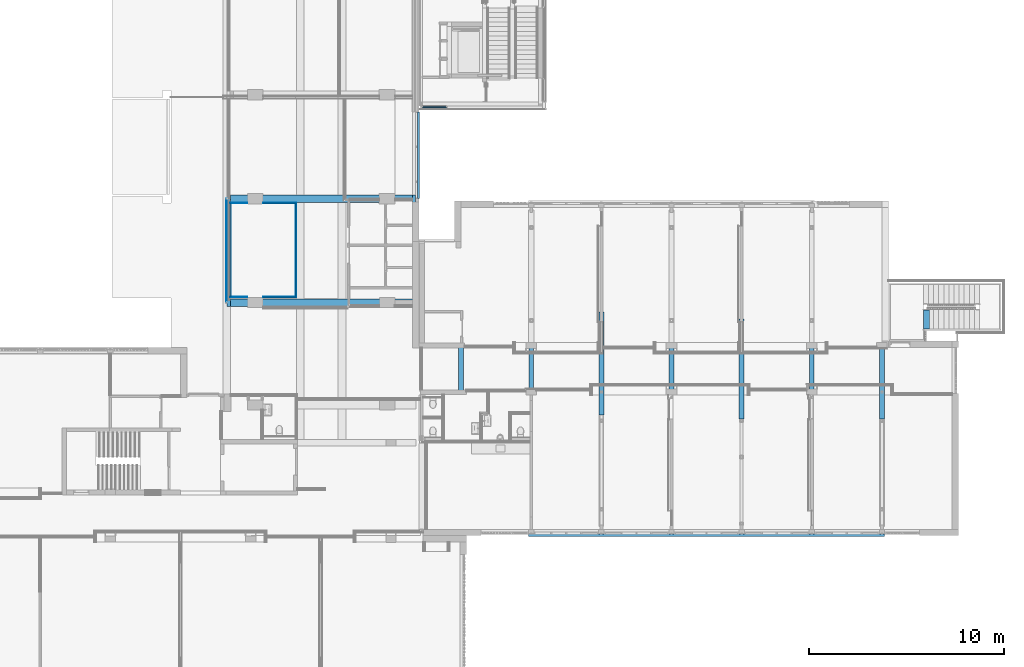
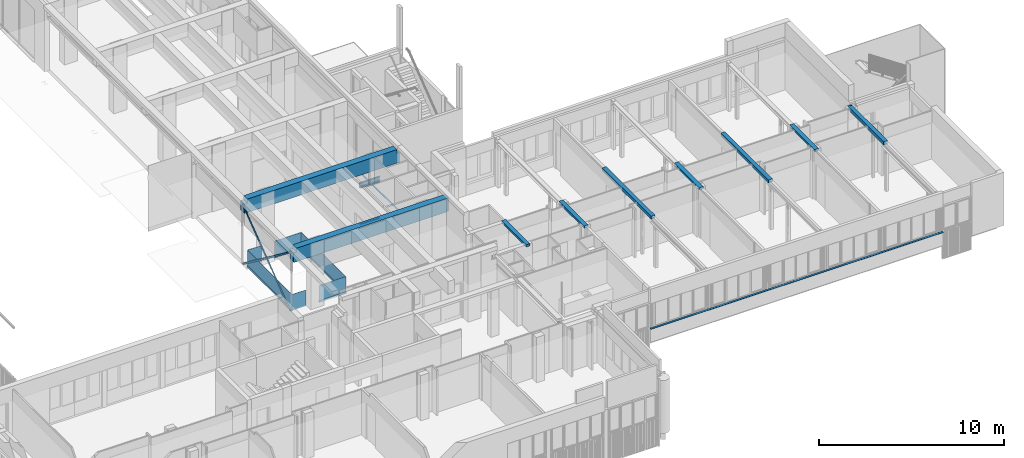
# One storey, part 22 of 117: 14 beams, 13 members, 4 elements without a shape of their own.
"""IFC2X3 building model written with IfcOpenShell, lengths in millimetres."""

from ifc_helpers import new_model, entity, si_unit, converted_unit, derived_unit, money_unit, direction, frame, origin_with_axes, place, context, subcontext, project, spatial, faceted_brep, material, type_object, element, aggregate, save


model = new_model("IFC2X3")

# Units and contexts
model_context = context("Model", 3, precision=0.01, world=origin_with_axes(), true_north=direction((0.0, 1.0)))
body_context = subcontext(model_context, "Body", "Model", "MODEL_VIEW")
ifc_project = project(units=[si_unit("LENGTHUNIT", "METRE", prefix="MILLI"), si_unit("AREAUNIT", "SQUARE_METRE"), si_unit("VOLUMEUNIT", "CUBIC_METRE"), converted_unit("PLANEANGLEUNIT", "DEGREE", entity("IfcPlaneAngleMeasure", 0.0174532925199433), si_unit("PLANEANGLEUNIT", "RADIAN"), dimensions=[0, 0, 0, 0, 0, 0, 0]), money_unit("EUR"), converted_unit("TIMEUNIT", "Year", entity("IfcTimeMeasure", 31557600.0), si_unit("TIMEUNIT", "SECOND"), dimensions=[0, 0, 1, 0, 0, 0, 0]), si_unit("MASSUNIT", "GRAM", prefix="KILO"), si_unit("THERMODYNAMICTEMPERATUREUNIT", "DEGREE_CELSIUS"), si_unit("LUMINOUSINTENSITYUNIT", "LUMEN"), si_unit("ENERGYUNIT", "JOULE", prefix="MEGA"), derived_unit("THERMALCONDUCTANCEUNIT", [(si_unit("POWERUNIT", "WATT"), 1), (si_unit("LENGTHUNIT", "METRE"), -1), (si_unit("THERMODYNAMICTEMPERATUREUNIT", "KELVIN"), -1)]), derived_unit("SPECIFICHEATCAPACITYUNIT", [(si_unit("ENERGYUNIT", "JOULE"), 1), (si_unit("MASSUNIT", "GRAM", prefix="KILO"), -1), (si_unit("THERMODYNAMICTEMPERATUREUNIT", "KELVIN"), -1)]), derived_unit("MASSDENSITYUNIT", [(si_unit("MASSUNIT", "GRAM", prefix="KILO"), 1), (si_unit("VOLUMEUNIT", "CUBIC_METRE"), -1)])], contexts=[model_context])

# Site, building, storey
site_placement = place(None, origin_with_axes())
site = spatial("IfcSite", under=ifc_project, at=site_placement, Name="Site", CompositionType="ELEMENT")
building_placement = place(site_placement, origin_with_axes())
building = spatial("IfcBuilding", under=site, at=building_placement, Name="Naam gebouw", CompositionType="ELEMENT")
storey_placement = place(building_placement, frame((0.0, 0.0, 4150.0), z_axis=(0.0, 0.0, 1.0), x_axis=(1.0, 0.0, 0.0)))
storey = spatial("IfcBuildingStorey", under=building, at=storey_placement, Name="1e verdieping N", CompositionType="ELEMENT", Elevation=4150.0)

# Railing, member
railing_type = type_object("IfcRailingType", Name="Railing Type", PredefinedType="NOTDEFINED")
railing_1_placement = place(storey_placement, frame((21426.0, 22875.91242510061, -115.0000000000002), z_axis=(0.0, 0.0, 1.0), x_axis=(1.0, 0.0, 0.0)))
railing_1 = element("IfcRailing", 1, at=railing_1_placement, inside=storey, type_object=railing_type, Name="_Reling-x", PredefinedType="NOTDEFINED")
ifc_material_1 = material(Name="Metaal - Aluminium")
member_type_1 = type_object("IfcMemberType", Name="IfcMember", PredefinedType="USERDEFINED")
member_1_placement = place(railing_1_placement, frame((-860.0004736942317, 2439.999999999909, -7.355608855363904), z_axis=(0.0, 0.0, 1.0), x_axis=(1.0, 0.0, 0.0)))
member_1 = element("IfcMember", 2, at=member_1_placement, type_object=member_type_1, material=ifc_material_1, Name="_Regel-x", context=body_context, shape_type="Brep", body=[
    faceted_brep([(30.00046204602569, -2379.999999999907, 122.3556088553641), (30.00046204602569, -2379.999999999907, 7.355608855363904), (29.99953795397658, 2379.999999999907, 7.355608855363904), (29.99953795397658, 2379.999999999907, 122.3556088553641), (-29.9995263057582, -2439.999999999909, 122.3556088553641), (-29.9995263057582, -2439.999999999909, 7.355608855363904), (-30.00047369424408, 2439.999999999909, 7.355608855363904), (-30.00047369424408, 2439.999999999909, 122.3556088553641)], [[[0, 1, 2, 3]], [[0, 4, 5, 1]], [[1, 5, 6, 2]], [[3, 2, 6, 7]], [[4, 0, 3, 7]], [[5, 4, 7, 6]]]),
])

# Railing, members
railing_2_placement = place(storey_placement, frame((23779.62181077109, 27755.91242510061, -115.0000000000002), z_axis=(0.0, 0.0, 1.0), x_axis=(1.0, 0.0, 0.0)))
railing_2 = element("IfcRailing", 3, at=railing_2_placement, inside=storey, type_object=railing_type, Name="_Reling-x", PredefinedType="NOTDEFINED")
member_2_placement = place(railing_2_placement, frame((-696.6218107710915, -30.00000000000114, -7.355608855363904), z_axis=(0.0, 0.0, 1.0), x_axis=(1.0, 0.0, 0.0)))
member_2 = element("IfcMember", 4, at=member_2_placement, type_object=member_type_1, material=ifc_material_1, Name="_Regel-x", context=body_context, shape_type="Brep", body=[
    faceted_brep([(-836.9999999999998, -30.00000000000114, 122.3556088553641), (-836.9999999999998, -30.00000000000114, 7.355608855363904), (806.999999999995, -30.00000000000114, 7.355608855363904), (806.999999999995, -30.00000000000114, 122.3556088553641), (-836.9999999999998, 30.00000000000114, 122.3556088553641), (-836.9999999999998, 30.00000000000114, 7.355608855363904), (866.9999999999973, 30.00000000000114, 7.355608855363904), (866.9999999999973, 30.00000000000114, 122.3556088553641)], [[[0, 1, 2, 3]], [[0, 4, 5, 1]], [[1, 5, 6, 2]], [[3, 2, 6, 7]], [[4, 0, 3, 7]], [[5, 4, 7, 6]]]),
])
member_3_placement = place(railing_2_placement, frame((140.3781892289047, -2439.999999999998, -7.355608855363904), z_axis=(0.0, 0.0, 1.0), x_axis=(1.0, 0.0, 0.0)))
member_3 = element("IfcMember", 5, at=member_3_placement, type_object=member_type_1, material=ifc_material_1, Name="_Regel-x", context=body_context, shape_type="Brep", body=[
    faceted_brep([(-30.00000000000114, 2379.999999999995, 122.3556088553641), (-30.00000000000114, 2379.999999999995, 7.355608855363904), (-30.00000000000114, -2379.999999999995, 7.355608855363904), (-30.00000000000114, -2379.999999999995, 122.3556088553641), (30.00000000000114, 2439.999999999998, 122.3556088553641), (30.00000000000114, 2439.999999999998, 7.355608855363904), (30.00000000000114, -2439.999999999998, 7.355608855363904), (30.00000000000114, -2439.999999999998, 122.3556088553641)], [[[0, 1, 2, 3]], [[0, 4, 5, 1]], [[1, 5, 6, 2]], [[3, 2, 6, 7]], [[4, 0, 3, 7]], [[5, 4, 7, 6]]]),
])
member_4_placement = place(railing_2_placement, frame((-696.6218107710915, -4849.999999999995, -7.355608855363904), z_axis=(0.0, 0.0, 1.0), x_axis=(1.0, 0.0, 0.0)))
member_4 = element("IfcMember", 6, at=member_4_placement, type_object=member_type_1, material=ifc_material_1, Name="_Regel-x", context=body_context, shape_type="Brep", body=[
    faceted_brep([(806.999999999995, 30.00000000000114, 122.3556088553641), (806.999999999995, 30.00000000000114, 7.355608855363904), (-836.9999999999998, 30.00000000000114, 7.355608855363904), (-836.9999999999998, 30.00000000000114, 122.3556088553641), (866.9999999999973, -30.00000000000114, 122.3556088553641), (866.9999999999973, -30.00000000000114, 7.355608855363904), (-836.9999999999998, -30.00000000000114, 7.355608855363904), (-836.9999999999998, -30.00000000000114, 122.3556088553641)], [[[0, 1, 2, 3]], [[0, 4, 5, 1]], [[1, 5, 6, 2]], [[3, 2, 6, 7]], [[4, 0, 3, 7]], [[5, 4, 7, 6]]]),
])

# Beams
beam_type_1 = type_object("IfcBeamType", Name="Lekdorpel 107 x 49", PredefinedType="BEAM")
beam_1_placement = place(storey_placement, frame((35862.5, 10660.91242510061, 783.0000000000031), z_axis=(0.0, 0.0, 1.0), x_axis=(0.0, -1.0, 0.0)))
element("IfcBeam", 7, at=beam_1_placement, inside=storey, type_object=beam_type_1, material=ifc_material_1, Name="_Balk-x", ObjectType="BEAM", context=body_context, shape_type="Brep", body=[
    faceted_brep([(28.00000000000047, 0.0, -1.678199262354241), (27.99999999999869, 18274.99999999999, -1.678199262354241), (27.99999999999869, 18274.99999999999, -16.5358983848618), (28.00000000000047, 0.0, -16.5358983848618), (-76.99999999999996, 0.0, 16.83613371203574), (-77.00000000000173, 18274.99999999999, 16.83613371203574), (-77.00000000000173, 18274.99999999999, 28.51433297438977), (-75.00000000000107, 18274.99999999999, 28.51433297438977), (-75.00000000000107, 18274.99999999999, 18.51433297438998), (29.99999999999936, 18274.99999999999, 0.0), (29.99999999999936, 18274.99999999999, -19.99999999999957), (19.99999999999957, 18274.99999999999, -14.22649730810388), (19.99999999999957, 18274.99999999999, -11.91709623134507), (19.99999999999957, 0.0, -11.91709623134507), (19.99999999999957, 0.0, -14.22649730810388), (29.99999999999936, 0.0, -19.99999999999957), (29.99999999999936, 0.0, 0.0), (-74.99999999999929, 0.0, 18.51433297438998), (-74.99999999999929, 0.0, 28.51433297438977), (-76.99999999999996, 0.0, 28.51433297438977)], [[[0, 1, 2, 3]], [[4, 5, 1, 0]], [[2, 1, 5, 6, 7, 8, 9, 10, 11, 12]], [[3, 2, 12, 13]], [[4, 0, 3, 13, 14, 15, 16, 17, 18, 19]], [[19, 6, 5, 4]], [[18, 7, 6, 19]], [[17, 8, 7, 18]], [[16, 9, 8, 17]], [[15, 10, 9, 16]], [[14, 11, 10, 15]], [[13, 12, 11, 14]]]),
])
beam_2_placement = place(storey_placement, frame((30236.0, 27955.91242510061, 0.0), z_axis=(0.0, 0.0, 1.0), x_axis=(1.0, 0.0, 0.0)))
element("IfcBeam", 8, at=beam_2_placement, inside=storey, type_object=beam_type_1, material=ifc_material_1, Name="_Balk-x", ObjectType="BEAM", context=body_context, shape_type="Brep", body=[
    faceted_brep([(27.99999999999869, 0.0, -1.678199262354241), (27.99999999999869, 4459.99999999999, -1.678199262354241), (27.99999999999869, 4459.99999999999, -16.5358983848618), (27.99999999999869, 0.0, -16.5358983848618), (-77.00000000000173, 0.0, 16.83613371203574), (-77.00000000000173, 4459.99999999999, 16.83613371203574), (-77.00000000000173, 4459.99999999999, 28.51433297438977), (-74.99999999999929, 4459.99999999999, 28.51433297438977), (-74.99999999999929, 4459.99999999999, 18.51433297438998), (30.00000000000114, 4459.99999999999, 0.0), (30.00000000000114, 4459.99999999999, -19.99999999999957), (19.99999999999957, 4459.99999999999, -14.22649730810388), (19.99999999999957, 4459.99999999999, -11.91709623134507), (19.99999999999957, 0.0, -11.91709623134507), (19.99999999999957, 0.0, -14.22649730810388), (30.00000000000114, 0.0, -19.99999999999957), (30.00000000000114, 0.0, 0.0), (-74.99999999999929, 0.0, 18.51433297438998), (-74.99999999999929, 0.0, 28.51433297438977), (-77.00000000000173, 0.0, 28.51433297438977)], [[[0, 1, 2, 3]], [[4, 5, 1, 0]], [[2, 1, 5, 6, 7, 8, 9, 10, 11, 12]], [[3, 2, 12, 13]], [[4, 0, 3, 13, 14, 15, 16, 17, 18, 19]], [[19, 6, 5, 4]], [[18, 7, 6, 19]], [[17, 8, 7, 18]], [[16, 9, 8, 17]], [[15, 10, 9, 16]], [[14, 11, 10, 15]], [[13, 12, 11, 14]]]),
])

# Stair, member
stair_placement = place(storey_placement, frame((56130.0, 22240.9124251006, -174.0000000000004), z_axis=(0.0, 0.0, 1.0), x_axis=(-1.0, 0.0, 0.0)))
stair = element("IfcStair", 9, at=stair_placement, inside=storey, Name="_Trap-x", ShapeType="NOTDEFINED")
ifc_material_2 = material(Name="Metaal - Staal C")
member_type_2 = type_object("IfcMemberType", Name="IfcMember", PredefinedType="USERDEFINED")
member_5_placement = place(stair_placement, frame((0.0, 489.9999999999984, 174.9113733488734), z_axis=(0.0, 0.0, 1.0), x_axis=(0.0, 1.0, 0.0)))
member_5 = element("IfcMember", 10, at=member_5_placement, type_object=member_type_2, material=ifc_material_2, Name="_Traptrede-x", context=body_context, shape_type="Brep", body=[
    faceted_brep([(-490.0, 0.0, -38.0), (490.0, 0.0, -38.0), (490.0, 0.0, 0.0), (-490.0, 0.0, 0.0), (-490.0, 301.8181818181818, -38.0), (490.0, 301.8181818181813, -38.0), (490.0, 301.8181818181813, 0.0), (-490.0, 301.8181818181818, 0.0)], [[[0, 1, 2, 3]], [[0, 4, 5, 1]], [[1, 5, 6, 2]], [[3, 2, 6, 7]], [[4, 0, 3, 7]], [[5, 4, 7, 6]]]),
])
aggregate(stair, [member_5])

# Beams
ifc_material_3 = material(Name="ALG - CONSTRUCTIEF KOLOM")
beam_type_2 = type_object("IfcBeamType", Name="ALG - CONSTRUCTIEF KOLOM 400 x 890", PredefinedType="BEAM")
beam_3_placement = place(storey_placement, frame((20386.0, 27955.91242510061, 4340.0), z_axis=(0.0, 0.0, 1.0), x_axis=(0.0, -1.0, 0.0)))
element("IfcBeam", 11, at=beam_3_placement, inside=storey, type_object=beam_type_2, material=ifc_material_3, Name="_Balk-x", ObjectType="BEAM", context=body_context, shape_type="Brep", body=[
    faceted_brep([(-199.9999999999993, 184.9999999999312, -250.0000000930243), (-199.9999999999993, 184.9999999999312, 0.0), (-199.9999999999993, 9519.999999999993, 0.0), (-199.9999999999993, 9519.999999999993, -250.0000000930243), (-199.9999999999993, 9669.99999999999, -250.0000000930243), (-199.9999999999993, 9669.999999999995, -890.000000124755), (-199.9999999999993, 0.0, -890.000000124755), (-199.9999999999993, 0.0, -250.0000000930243), (199.9999999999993, 184.9999999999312, -250.0000000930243), (199.9999999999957, 184.9999999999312, 0.0), (199.9999999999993, 9519.999999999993, 0.0), (199.9999999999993, 9519.999999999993, -250.0000000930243), (199.9999999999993, 9669.99999999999, -250.0000000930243), (199.9999999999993, 9669.999999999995, -890.000000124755), (199.9999999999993, 0.0, -890.000000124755), (199.9999999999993, 0.0, -250.0000000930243)], [[[0, 1, 2, 3, 4, 5, 6, 7]], [[1, 0, 8, 9]], [[1, 9, 10, 2]], [[10, 11, 3, 2]], [[3, 11, 12, 4]], [[13, 5, 4, 12]], [[5, 13, 14, 6]], [[7, 6, 14, 15]], [[7, 15, 8, 0]], [[13, 12, 11, 10, 9, 8, 15, 14]]]),
])
beam_4_placement = place(storey_placement, frame((20386.0, 22620.0978083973, 4340.0), z_axis=(0.0, 0.0, 1.0), x_axis=(0.0, -1.0, 0.0)))
element("IfcBeam", 12, at=beam_4_placement, inside=storey, type_object=beam_type_2, material=ifc_material_3, Name="_Balk-x", ObjectType="BEAM", context=body_context, shape_type="Brep", body=[
    faceted_brep([(199.9999999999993, 9669.999999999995, 0.0), (199.9999999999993, 9669.999999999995, -839.9999999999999), (-199.9999999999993, 9669.999999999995, -839.9999999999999), (-199.9999999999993, 9669.999999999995, 0.0), (199.9999999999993, 9559.000000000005, -890.000000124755), (199.9999999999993, 9559.000000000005, -839.9999999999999), (199.9999999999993, 184.9999999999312, 0.0), (199.9999999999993, 184.9999999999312, -250.0000000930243), (199.9999999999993, 0.0, -250.0000000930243), (199.9999999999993, 0.0, -890.000000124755), (-199.9999999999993, 9559.000000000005, -839.9999999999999), (-199.9999999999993, 9559.000000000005, -890.000000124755), (-199.9999999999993, 0.0, -890.000000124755), (-199.9999999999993, 0.0, -250.0000000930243), (-199.9999999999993, 184.9999999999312, -250.0000000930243), (-199.9999999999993, 184.9999999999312, 0.0)], [[[0, 1, 2, 3]], [[4, 5, 1, 0, 6, 7, 8, 9]], [[5, 10, 2, 1]], [[2, 10, 11, 12, 13, 14, 15, 3]], [[0, 3, 15, 6]], [[4, 11, 10, 5]], [[14, 7, 6, 15]], [[8, 7, 14, 13]], [[12, 9, 8, 13]], [[12, 11, 4, 9]]]),
])
ifc_material_4 = material(Name="staal")
beam_type_3 = type_object("IfcBeamType", Name="NLRS_28_SF_staal - balk - UNP:UNP300", PredefinedType="BEAM")
beam_5_placement = place(storey_placement, frame((31685.00219855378, 32657.24606858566, -1150.000000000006), z_axis=(0.0, 0.0, 1.0), x_axis=(0.0, 1.0, 0.0)))
element("IfcBeam", 13, at=beam_5_placement, inside=storey, type_object=beam_type_3, material=ifc_material_4, Name="NLRS_28_SF_staal - balk - UNP:UNP300", ObjectType="BEAM", context=body_context, shape_type="Brep", body=[
    faceted_brep([(-45.33333333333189, 0.0, 149.9999999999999), (-45.33333333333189, 1294.002198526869, 149.9999999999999), (-45.33333333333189, 1294.002198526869, 144.0999999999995), (-45.33333333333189, 0.0, 144.0999999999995), (54.66666666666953, 0.0, 149.9999999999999), (54.66666666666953, 1294.002198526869, 149.9999999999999), (54.66666666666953, 1294.002198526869, -149.9999999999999), (-45.33333333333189, 1294.002198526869, -149.9999999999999), (-45.33333333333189, 1294.002198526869, -144.0999999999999), (-42.99018758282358, 1294.002198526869, -138.4431457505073), (-37.33333333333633, 1294.002198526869, -136.0999999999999), (28.66666666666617, 1294.002198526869, -132.8), (36.66666666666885, 1294.002198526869, -130.6564064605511), (42.52307312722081, 1294.002198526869, -124.8), (44.66666666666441, 1294.002198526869, -116.8), (44.66666666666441, 1294.002198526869, 116.8), (42.52307312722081, 1294.002198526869, 124.7999999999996), (36.66666666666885, 1294.002198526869, 130.6564064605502), (28.66666666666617, 1294.002198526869, 132.7999999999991), (-37.33333333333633, 1294.002198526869, 136.1000000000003), (-42.99018758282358, 1294.002198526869, 138.4431457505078), (-42.99018758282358, 0.0, 138.4431457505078), (-37.33333333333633, 0.0, 136.1000000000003), (28.66666666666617, 0.0, 132.7999999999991), (36.66666666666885, 0.0, 130.6564064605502), (42.52307312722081, 0.0, 124.7999999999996), (44.66666666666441, 0.0, 116.8), (44.66666666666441, 0.0, -116.8), (42.52307312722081, 0.0, -124.8), (36.66666666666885, 0.0, -130.6564064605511), (28.66666666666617, 0.0, -132.8), (-37.33333333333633, 0.0, -136.0999999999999), (-42.99018758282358, 0.0, -138.4431457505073), (-45.33333333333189, 0.0, -144.0999999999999), (-45.33333333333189, 0.0, -149.9999999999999), (54.66666666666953, 0.0, -149.9999999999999)], [[[0, 1, 2, 3]], [[4, 5, 1, 0]], [[2, 1, 5, 6, 7, 8, 9, 10, 11, 12, 13, 14, 15, 16, 17, 18, 19, 20]], [[3, 2, 20, 21]], [[4, 0, 3, 21, 22, 23, 24, 25, 26, 27, 28, 29, 30, 31, 32, 33, 34, 35]], [[35, 6, 5, 4]], [[34, 7, 6, 35]], [[33, 8, 7, 34]], [[32, 9, 8, 33]], [[31, 10, 9, 32]], [[30, 11, 10, 31]], [[29, 12, 11, 30]], [[28, 13, 12, 29]], [[27, 14, 13, 28]], [[26, 15, 14, 27]], [[25, 16, 15, 26]], [[24, 17, 16, 25]], [[23, 18, 17, 24]], [[22, 19, 18, 23]], [[21, 20, 19, 22]]]),
])

# Member
ifc_material_5 = material(Name="Glas")
member_type_3 = type_object("IfcMemberType", Name="IfcMember", PredefinedType="PLATE")
member_6_placement = place(railing_1_placement, frame((-430.000002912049, 30.00000000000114, 57.50000000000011), z_axis=(0.0, 0.0, 1.0), x_axis=(1.0, 0.0, 0.0)))
member_6 = element("IfcMember", 14, at=member_6_placement, type_object=member_type_3, material=ifc_material_5, Name="_Paneel-x", ObjectType="PLATE", context=body_context, shape_type="Brep", body=[
    faceted_brep([(430.000003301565, -9.999999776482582, -3.895159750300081e-07), (430.000003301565, -9.999999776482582, 1057.499999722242), (-440.0000004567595, -9.999999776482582, 1057.499999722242), (-440.0000004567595, -9.999999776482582, -3.895159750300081e-07), (430.000003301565, 9.999999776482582, 1057.499999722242), (430.000003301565, 9.999999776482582, -3.895159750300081e-07), (-420.0000047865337, 9.999999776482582, 1057.499999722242), (-420.0000047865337, 9.999999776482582, -3.895159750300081e-07)], [[[0, 1, 2, 3]], [[4, 1, 0, 5]], [[2, 1, 4, 6]], [[3, 2, 6, 7]], [[5, 0, 3, 7]], [[6, 4, 5, 7]]]),
])

member_7_placement = place(railing_1_placement, frame((-860.0004736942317, 2439.999999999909, 57.50000000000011), z_axis=(0.0, 0.0, 1.0), x_axis=(1.0, 0.0, 0.0)))
member_7 = element("IfcMember", 15, at=member_7_placement, type_object=member_type_3, material=ifc_material_5, Name="_Paneel-x", ObjectType="PLATE", context=body_context, shape_type="Brep", body=[
    faceted_brep([(-9.999529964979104, -2420.000000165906, -3.895159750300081e-07), (-9.999529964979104, -2420.000000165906, 1057.499999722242), (-10.00046958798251, 2419.999999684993, 1057.499999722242), (-10.00046958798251, 2419.999999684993, -3.895159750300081e-07), (10.0004657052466, -2400.000000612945, 1057.499999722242), (10.0004657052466, -2400.000000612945, -3.895159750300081e-07), (9.99953384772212, 2400.000000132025, 1057.499999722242), (9.99953384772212, 2400.000000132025, -3.895159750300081e-07)], [[[0, 1, 2, 3]], [[4, 1, 0, 5]], [[2, 1, 4, 6]], [[3, 2, 6, 7]], [[5, 0, 3, 7]], [[6, 4, 5, 7]]]),
])

member_8_placement = place(railing_1_placement, frame((-430.0004353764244, 4849.999999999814, 57.50000000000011), z_axis=(0.0, 0.0, 1.0), x_axis=(1.0, 0.0, 0.0)))
member_8 = element("IfcMember", 16, at=member_8_placement, type_object=member_type_3, material=ifc_material_5, Name="_Paneel-x", ObjectType="PLATE", context=body_context, shape_type="Brep", body=[
    faceted_brep([(-440.0005082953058, 9.999999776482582, -3.895159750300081e-07), (-440.0005082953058, 9.999999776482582, 1057.499999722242), (430.0005061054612, 9.999999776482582, 1057.499999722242), (430.0005061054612, 9.999999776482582, -3.895159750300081e-07), (-420.0005048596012, -9.999999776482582, 1057.499999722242), (-420.0005048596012, -9.999999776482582, -3.895159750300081e-07), (430.0005061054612, -9.999999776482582, 1057.499999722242), (430.0005061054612, -9.999999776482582, -3.895159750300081e-07)], [[[0, 1, 2, 3]], [[4, 1, 0, 5]], [[2, 1, 4, 6]], [[3, 2, 6, 7]], [[5, 0, 3, 7]], [[6, 4, 5, 7]]]),
])

aggregate(railing_1, [member_6, member_1, member_7, member_8])

member_9_placement = place(railing_2_placement, frame((-696.6218107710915, -30.00000000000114, 57.50000000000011), z_axis=(0.0, 0.0, 1.0), x_axis=(1.0, 0.0, 0.0)))
member_9 = element("IfcMember", 17, at=member_9_placement, type_object=member_type_3, material=ifc_material_5, Name="_Paneel-x", ObjectType="PLATE", context=body_context, shape_type="Brep", body=[
    faceted_brep([(-837.0000003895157, 9.999999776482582, -3.895159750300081e-07), (-837.0000003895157, 9.999999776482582, 1057.499999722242), (846.9999999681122, 9.999999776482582, 1057.499999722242), (846.9999999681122, 9.999999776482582, -3.895159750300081e-07), (-837.0000003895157, -9.999999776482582, 1057.499999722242), (-837.0000003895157, -9.999999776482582, -3.895159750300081e-07), (827.000000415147, -9.999999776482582, 1057.499999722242), (827.000000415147, -9.999999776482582, -3.895159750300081e-07)], [[[0, 1, 2, 3]], [[4, 1, 0, 5]], [[2, 1, 4, 6]], [[3, 2, 6, 7]], [[5, 0, 3, 7]], [[6, 4, 5, 7]]]),
])

member_10_placement = place(railing_2_placement, frame((140.3781892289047, -2439.999999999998, 57.50000000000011), z_axis=(0.0, 0.0, 1.0), x_axis=(1.0, 0.0, 0.0)))
member_10 = element("IfcMember", 18, at=member_10_placement, type_object=member_type_3, material=ifc_material_5, Name="_Paneel-x", ObjectType="PLATE", context=body_context, shape_type="Brep", body=[
    faceted_brep([(9.999999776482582, 2420.000000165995, -3.895159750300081e-07), (9.999999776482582, 2420.000000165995, 1057.499999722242), (9.999999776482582, -2419.999999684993, 1057.499999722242), (9.999999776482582, -2419.999999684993, -3.895159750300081e-07), (-9.999999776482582, 2400.00000061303, 1057.499999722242), (-9.999999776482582, 2400.00000061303, -3.895159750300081e-07), (-9.999999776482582, -2400.000000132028, 1057.499999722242), (-9.999999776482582, -2400.000000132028, -3.895159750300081e-07)], [[[0, 1, 2, 3]], [[4, 1, 0, 5]], [[2, 1, 4, 6]], [[3, 2, 6, 7]], [[5, 0, 3, 7]], [[6, 4, 5, 7]]]),
])

member_11_placement = place(railing_2_placement, frame((-696.6218107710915, -4849.999999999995, 57.50000000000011), z_axis=(0.0, 0.0, 1.0), x_axis=(1.0, 0.0, 0.0)))
member_11 = element("IfcMember", 19, at=member_11_placement, type_object=member_type_3, material=ifc_material_5, Name="_Paneel-x", ObjectType="PLATE", context=body_context, shape_type="Brep", body=[
    faceted_brep([(847.0000001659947, -9.999999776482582, -3.895159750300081e-07), (847.0000001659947, -9.999999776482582, 1057.499999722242), (-837.0000001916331, -9.999999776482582, 1057.499999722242), (-837.0000001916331, -9.999999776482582, -3.895159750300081e-07), (827.0000006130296, 9.999999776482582, 1057.499999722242), (827.0000006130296, 9.999999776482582, -3.895159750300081e-07), (-837.0000001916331, 9.999999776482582, 1057.499999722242), (-837.0000001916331, 9.999999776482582, -3.895159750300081e-07)], [[[0, 1, 2, 3]], [[4, 1, 0, 5]], [[2, 1, 4, 6]], [[3, 2, 6, 7]], [[5, 0, 3, 7]], [[6, 4, 5, 7]]]),
])

aggregate(railing_2, [member_2, member_9, member_10, member_3, member_4, member_11])

# Beams
beam_type_4 = type_object("IfcBeamType", Name="Metaal - Staal C 10 x 100", PredefinedType="BEAM")
beam_6_placement = place(storey_placement, frame((20363.49999999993, 27915.91242510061, 99.2829695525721), z_axis=(0.0, 0.0, 1.0), x_axis=(-1.0, 0.0, 0.0)))
element("IfcBeam", 20, at=beam_6_placement, inside=storey, type_object=beam_type_4, material=ifc_material_2, Name="_Balk-x", ObjectType="BEAM", context=body_context, shape_type="Brep", body=[
    faceted_brep([(-4.999999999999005, 60.32730431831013, -79.75347236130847), (-4.999999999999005, 5250.000021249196, 3845.830656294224), (4.999999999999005, 5250.000021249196, 3845.830656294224), (4.999999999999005, 60.32730431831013, -79.75347236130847), (-4.999999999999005, 0.0, 0.0), (-4.999999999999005, 5189.672716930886, 3925.584128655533), (4.999999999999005, 5189.672716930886, 3925.584128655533), (4.999999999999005, 0.0, 0.0)], [[[0, 1, 2, 3]], [[4, 5, 1, 0]], [[2, 1, 5, 6]], [[3, 2, 6, 7]], [[4, 0, 3, 7]], [[7, 6, 5, 4]]]),
])
beam_7_placement = place(storey_placement, frame((20378.49999999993, 22726.23970816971, 99.2829695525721), z_axis=(0.0, 0.0, 1.0), x_axis=(1.0, 0.0, 0.0)))
element("IfcBeam", 21, at=beam_7_placement, inside=storey, type_object=beam_type_4, material=ifc_material_2, Name="_Balk-x", ObjectType="BEAM", context=body_context, shape_type="Brep", body=[
    faceted_brep([(-4.999999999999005, 60.32730431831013, -79.75347236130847), (-4.999999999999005, 5250.000021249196, 3845.830656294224), (4.999999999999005, 5250.000021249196, 3845.830656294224), (4.999999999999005, 60.32730431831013, -79.75347236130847), (-4.999999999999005, 0.0, 0.0), (-4.999999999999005, 5189.672716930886, 3925.584128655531), (4.999999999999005, 5189.672716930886, 3925.584128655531), (4.999999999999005, 0.0, 0.0)], [[[0, 1, 2, 3]], [[4, 5, 1, 0]], [[2, 1, 5, 6]], [[3, 2, 6, 7]], [[4, 0, 3, 7]], [[7, 6, 5, 4]]]),
])
beam_type_5 = type_object("IfcBeamType", Name="ALG - CONSTRUCTIEF KOLOM 250 x 250", PredefinedType="BEAM")
beam_8_placement = place(storey_placement, frame((46800.00000000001, 21775.9124251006, 3250.000000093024), z_axis=(0.0, 0.0, 1.0), x_axis=(-1.0, 0.0, 0.0)))
element("IfcBeam", 22, at=beam_8_placement, inside=storey, type_object=beam_type_5, material=ifc_material_3, Name="_Balk-x", ObjectType="BEAM", context=body_context, shape_type="Brep", body=[
    faceted_brep([(125.0, 0.0, -250.0000000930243), (125.0, 0.0, -50.00000009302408), (-125.0, 0.0, -50.00000009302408), (-125.0, 0.0, -250.0000000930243), (125.0, 5129.999999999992, -250.0000000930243), (125.0, 5129.999999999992, -50.00000009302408), (-125.0, 5129.999999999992, -50.00000009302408), (-125.0, 5129.999999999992, -250.0000000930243)], [[[0, 1, 2, 3]], [[4, 5, 1, 0]], [[5, 6, 2, 1]], [[3, 2, 6, 7]], [[4, 0, 3, 7]], [[7, 6, 5, 4]]]),
])
beam_9_placement = place(storey_placement, frame((54000.0, 20575.91242510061, 3230.000000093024), z_axis=(0.0, 0.0, 1.0), x_axis=(-1.0, 0.0, 0.0)))
element("IfcBeam", 23, at=beam_9_placement, inside=storey, type_object=beam_type_5, material=ifc_material_3, Name="_Balk-x", ObjectType="BEAM", context=body_context, shape_type="Brep", body=[
    faceted_brep([(-125.0, 0.0, 0.0), (0.0, 0.0, 0.0), (0.0, 84.4824911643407, 0.0), (-125.0, 84.4824911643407, 0.0), (125.0, 0.0, -30.00000009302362), (0.0, 0.0, -30.00000009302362), (-125.0, 0.0, -250.0000000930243), (125.0, 0.0, -250.0000000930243), (0.0, 84.4824911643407, -30.00000009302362), (-125.0, 84.4824911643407, -30.00000009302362), (-125.0, 3930.0, -30.00000009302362), (-125.0, 3930.0, -250.0000000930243), (125.0, 3930.0, -30.00000009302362), (125.0, 3930.0, -250.0000000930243)], [[[0, 1, 2, 3]], [[4, 5, 1, 0, 6, 7]], [[8, 2, 1, 5]], [[8, 9, 3, 2]], [[3, 9, 10, 11, 6, 0]], [[12, 10, 9, 8, 5, 4]], [[7, 6, 11, 13]], [[13, 12, 4, 7]], [[11, 10, 12, 13]]]),
])
beam_10_placement = place(storey_placement, frame((50399.99999999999, 20575.91242510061, 3300.0), z_axis=(0.0, 0.0, 1.0), x_axis=(-1.0, 0.0, 0.0)))
element("IfcBeam", 24, at=beam_10_placement, inside=storey, type_object=beam_type_5, material=ifc_material_3, Name="_Balk-x", ObjectType="BEAM", context=body_context, shape_type="Brep", body=[
    faceted_brep([(125.0, 0.0, -250.0000000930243), (125.0, 0.0, -99.99999999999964), (-125.0, 0.0, -99.99999999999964), (-125.0, 0.0, -250.0000000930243), (125.0, 2705.000000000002, -250.0000000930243), (125.0, 2705.000000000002, -99.99999999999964), (-125.0, 2705.000000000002, -99.99999999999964), (-125.0, 2705.000000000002, -250.0000000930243)], [[[0, 1, 2, 3]], [[4, 5, 1, 0]], [[5, 6, 2, 1]], [[3, 2, 6, 7]], [[0, 3, 7, 4]], [[7, 6, 5, 4]]]),
])
beam_11_placement = place(storey_placement, frame((43199.99999999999, 20580.91242510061, 3300.0), z_axis=(0.0, 0.0, 1.0), x_axis=(-1.0, 0.0, 0.0)))
element("IfcBeam", 25, at=beam_11_placement, inside=storey, type_object=beam_type_5, material=ifc_material_3, Name="_Balk-x", ObjectType="BEAM", context=body_context, shape_type="Brep", body=[
    faceted_brep([(125.0, 0.0, -250.0000000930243), (125.0, 0.0, -99.99999999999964), (-125.0, 0.0, -99.99999999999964), (-125.0, 0.0, -250.0000000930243), (125.0, 2710.000000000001, -250.0000000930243), (125.0, 2710.000000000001, -99.99999999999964), (-125.0, 2710.000000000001, -99.99999999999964), (-125.0, 2710.000000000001, -250.0000000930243)], [[[0, 1, 2, 3]], [[4, 5, 1, 0]], [[5, 6, 2, 1]], [[3, 2, 6, 7]], [[0, 3, 7, 4]], [[7, 6, 5, 4]]]),
])
beam_12_placement = place(storey_placement, frame((39599.99999999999, 22130.91242510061, 3250.000000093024), z_axis=(0.0, 0.0, 1.0), x_axis=(-1.0, 0.0, 0.0)))
element("IfcBeam", 26, at=beam_12_placement, inside=storey, type_object=beam_type_5, material=ifc_material_3, Name="_Balk-x", ObjectType="BEAM", context=body_context, shape_type="Brep", body=[
    faceted_brep([(125.0, 0.0, -250.0000000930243), (125.0, 0.0, -50.00000009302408), (-125.0, 0.0, -50.00000009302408), (-125.0, 0.0, -250.0000000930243), (125.0, 5275.000000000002, -250.0000000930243), (125.0, 5275.000000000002, -50.00000009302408), (-125.0, 5275.000000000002, -50.00000009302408), (-125.0, 5275.000000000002, -250.0000000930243)], [[[0, 1, 2, 3]], [[4, 5, 1, 0]], [[5, 6, 2, 1]], [[3, 2, 6, 7]], [[4, 0, 3, 7]], [[7, 6, 5, 4]]]),
])
beam_13_placement = place(storey_placement, frame((35999.99999999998, 20580.91242510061, 3300.0), z_axis=(0.0, 0.0, 1.0), x_axis=(-1.0, 0.0, 0.0)))
element("IfcBeam", 27, at=beam_13_placement, inside=storey, type_object=beam_type_5, material=ifc_material_3, Name="_Balk-x", ObjectType="BEAM", context=body_context, shape_type="Brep", body=[
    faceted_brep([(125.0, 0.0, -250.0000000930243), (125.0, 0.0, -99.99999999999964), (-125.0, 0.0, -99.99999999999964), (-125.0, 0.0, -250.0000000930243), (125.0, 2710.000000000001, -250.0000000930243), (125.0, 2710.000000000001, -99.99999999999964), (-125.0, 2710.000000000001, -99.99999999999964), (-125.0, 2710.000000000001, -250.0000000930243)], [[[0, 1, 2, 3]], [[4, 5, 1, 0]], [[5, 6, 2, 1]], [[3, 2, 6, 7]], [[0, 3, 7, 4]], [[7, 6, 5, 4]]]),
])
beam_14_placement = place(storey_placement, frame((32399.99999999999, 20550.91242510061, 3300.0), z_axis=(0.0, 0.0, 1.0), x_axis=(-1.0, 0.0, 0.0)))
element("IfcBeam", 28, at=beam_14_placement, inside=storey, type_object=beam_type_5, material=ifc_material_3, Name="_Balk-x", ObjectType="BEAM", context=body_context, shape_type="Brep", body=[
    faceted_brep([(125.0, 0.0, -250.0000000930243), (125.0, 0.0, -99.99999999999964), (-125.0, 0.0, -99.99999999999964), (-125.0, 0.0, -250.0000000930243), (125.0, 2649.999999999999, -250.0000000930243), (125.0, 2649.999999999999, -99.99999999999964), (-125.0, 2649.999999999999, -99.99999999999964), (-125.0, 2649.999999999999, -250.0000000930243)], [[[0, 1, 2, 3]], [[4, 5, 1, 0]], [[5, 6, 2, 1]], [[3, 2, 6, 7]], [[0, 3, 7, 4]], [[7, 6, 5, 4]]]),
])

# Curtain wall, members
curtain_wall_type = type_object("IfcCurtainWallType", Name="Curtain Wall:21_CW_alu kozijn 070x065", PredefinedType="NOTDEFINED")
curtain_wall_placement = place(storey_placement, frame((0.0, 0.0, -4150.0), z_axis=(0.0, 0.0, 1.0), x_axis=(1.0, 0.0, 0.0)))
curtain_wall = element("IfcCurtainWall", 29, at=curtain_wall_placement, inside=storey, type_object=curtain_wall_type, Name="Curtain Wall:21_CW_alu kozijn 070x065", ObjectType="Curtain Wall:21_CW_alu kozijn 070x065")
ifc_material_6 = material(Name="RAL 7024 - Grafietgrijs")
member_type_4 = type_object("IfcMemberType", Name="Rectangular Mullion:31_alu_070x065 RAL 7024", PredefinedType="MULLION")
member_12_placement = place(curtain_wall_placement, frame((30464.47296358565, 32679.41242631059, 2849.999999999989), z_axis=(0.0, 0.0, 1.0), x_axis=(0.0, 1.0, 0.0)))
member_12 = element("IfcMember", 30, at=member_12_placement, type_object=member_type_4, material=ifc_material_6, Name="Rectangular Mullion:31_alu_070x065 RAL 7024", ObjectType="MULLION", context=body_context, shape_type="Brep", body=[
    faceted_brep([(32.50000000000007, -1150.527036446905, 0.0), (32.50000000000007, -1150.527036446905, -70.0), (32.49999999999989, 0.0, -70.0), (32.49999999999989, 0.0, 0.0), (-32.49999999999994, -1150.527036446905, 0.0), (-32.49999999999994, -1150.527036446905, -70.0), (-32.50000000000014, 0.0, -70.0), (-32.50000000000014, 0.0, 0.0)], [[[0, 1, 2, 3]], [[0, 4, 5, 1]], [[1, 5, 6, 2]], [[3, 2, 6, 7]], [[4, 0, 3, 7]], [[5, 4, 7, 6]]]),
])
member_type_5 = type_object("IfcMemberType", Name="Rectangular Mullion:31_alu_070x065 RAL 7024", PredefinedType="MULLION")
member_13_placement = place(curtain_wall_placement, frame((31615.00000004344, 32679.41242631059, 379.9999999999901), z_axis=(0.0, 0.0, 1.0), x_axis=(0.0, 1.0, 0.0)))
member_13 = element("IfcMember", 31, at=member_13_placement, type_object=member_type_5, material=ifc_material_6, Name="Rectangular Mullion:31_alu_070x065 RAL 7024", ObjectType="MULLION", context=body_context, shape_type="Brep", body=[
    faceted_brep([(32.49999999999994, 1150.527036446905, 0.0), (32.49999999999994, 1150.527036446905, 70.0), (32.50000000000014, 0.0, 70.0), (32.50000000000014, 0.0, 0.0), (-32.50000000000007, 1150.527036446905, 0.0), (-32.50000000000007, 1150.527036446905, 70.0), (-32.49999999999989, 0.0, 70.0), (-32.49999999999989, 0.0, 0.0)], [[[0, 1, 2, 3]], [[0, 4, 5, 1]], [[1, 5, 6, 2]], [[3, 2, 6, 7]], [[4, 0, 3, 7]], [[5, 4, 7, 6]]]),
])
aggregate(curtain_wall, [member_12, member_13])

save(model, "model.ifc")
